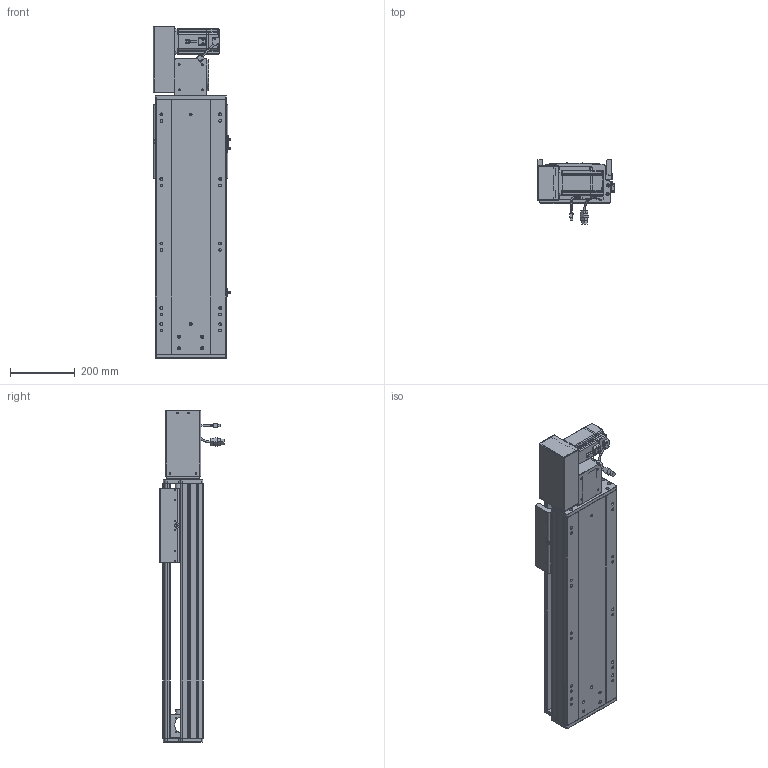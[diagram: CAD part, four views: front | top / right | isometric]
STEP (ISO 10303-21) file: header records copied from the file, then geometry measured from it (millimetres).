
FILE_DESCRIPTION (( 'STEP AP203' ), '1' );
FILE_NAME ('RY220-T-300-LK.SLDASM_450.step', '2022-07-25T08:13:10', ( '' ), ( '' ), 'SwSTEP 2.0', 'SolidWorks 2016', '' );
FILE_SCHEMA (( 'CONFIG_CONTROL_DESIGN' ));
Length unit declared in the file: millimetre
Products named in the file (14): RY220翋肮祭謫釱; 110A-T-肮祭謫釱傷裔; RY220-T-湍謫欶(鍼踢); 覜茼ん672; 滅袉蝶18-15; 怢湛750W_ECMA-CX0807ES; RY220-T-蛌殏萇儂假蚾啣(750W); RY220-同步轮副支撑座6304×2; RY220-T-300-奻裔啣_450; RY220-俋离672覜茼んえ; RY220-T菁釱-300_450; RY220圉猾敕々湍臏賑輸; RY220-T-300-LK.SLDASM_450; RY220翋肮祭謫裔啣
Assembly tree (18 placements, depth 2):
  RY220-T-300-LK.SLDASM_450
    RY220-T菁釱-300_450
    RY220翋肮祭謫釱
    覜茼ん672  x3
    RY220圉猾敕々湍臏賑輸
    RY220-T-300-奻裔啣_450
    RY220-俋离672覜茼んえ
    滅袉蝶18-15  x3
    RY220翋肮祭謫裔啣  x2
    110A-T-肮祭謫釱傷裔
    怢湛750W_ECMA-CX0807ES
    RY220-T-湍謫欶(鍼踢)
    RY220-T-蛌殏萇儂假蚾啣(750W)
    RY220-同步轮副支撑座6304×2
Bounding box: 239.7 x 198.77 x 1029 mm (x, y, z)
Volume: 8697361.9 mm3; surface area: 2420997.8 mm2
Topology: 19 solids, 19 shells, 2524 faces, 6959 edges, 4436 vertices
Faces by surface type: cylinder 1160, plane 1069, cone 213, bspline 56, sphere 16, torus 10
Entity records: 83939 total; most frequent: CARTESIAN_POINT 24055, ORIENTED_EDGE 12474, DIRECTION 11692, EDGE_CURVE 6237, AXIS2_PLACEMENT_3D 4102, VERTEX_POINT 4060, VECTOR 3488, LINE 3488
